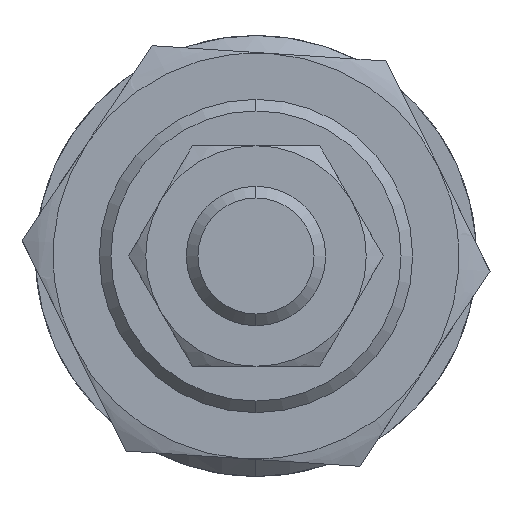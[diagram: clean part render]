
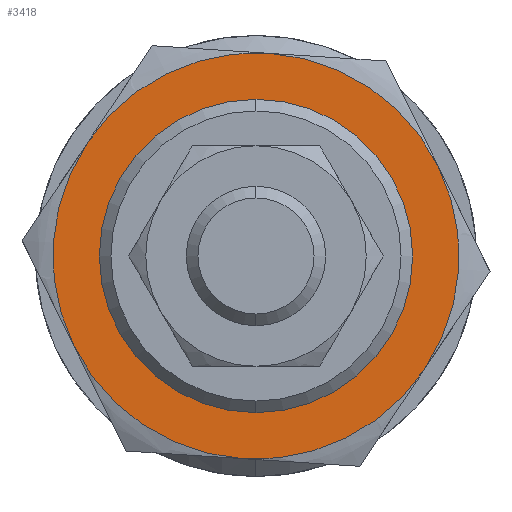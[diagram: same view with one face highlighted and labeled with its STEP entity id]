
A CAD part, left-side view. The second image highlights one B-rep face of the part: STEP entity #3418.
In plain terms, the highlighted planar face has unit normal (-1, 0, 0) as drawn and (0, 0, -1) by its records, which use the part's own axes.
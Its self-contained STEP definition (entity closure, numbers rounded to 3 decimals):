
#3 = EDGE_CURVE ( 'NONE', #1972, #694, #2742, .T. ) ;
#124 = CARTESIAN_POINT ( 'NONE',  ( 0., 0., -5. ) ) ;
#131 = VERTEX_POINT ( 'NONE', #1305 ) ;
#184 = VERTEX_POINT ( 'NONE', #1986 ) ;
#220 = CARTESIAN_POINT ( 'NONE',  ( 0., 0., -5. ) ) ;
#256 = DIRECTION ( 'NONE',  ( 0., 0., 1. ) ) ;
#394 = CARTESIAN_POINT ( 'NONE',  ( 8.75, 15.155, -5. ) ) ;
#447 = CARTESIAN_POINT ( 'NONE',  ( 0., 0., -5. ) ) ;
#463 = DIRECTION ( 'NONE',  ( 1., 0., 0. ) ) ;
#487 = DIRECTION ( 'NONE',  ( 1., 0., 0. ) ) ;
#512 = DIRECTION ( 'NONE',  ( 0., 0., 1. ) ) ;
#606 = FACE_OUTER_BOUND ( 'NONE', #1118, .T. ) ;
#694 = VERTEX_POINT ( 'NONE', #776 ) ;
#704 = AXIS2_PLACEMENT_3D ( 'NONE', #3410, #256, #487 ) ;
#741 = CIRCLE ( 'NONE', #1166, 17.5 ) ;
#761 = DIRECTION ( 'NONE',  ( 1., 0., 0. ) ) ;
#776 = CARTESIAN_POINT ( 'NONE',  ( -17.5, 0., -5. ) ) ;
#800 = EDGE_CURVE ( 'NONE', #1824, #3229, #3193, .T. ) ;
#870 = EDGE_CURVE ( 'NONE', #184, #1401, #3114, .T. ) ;
#885 = CIRCLE ( 'NONE', #2513, 17.5 ) ;
#904 = AXIS2_PLACEMENT_3D ( 'NONE', #1711, #2651, #761 ) ;
#960 = AXIS2_PLACEMENT_3D ( 'NONE', #1249, #3263, #1472 ) ;
#979 = AXIS2_PLACEMENT_3D ( 'NONE', #447, #2016, #1512 ) ;
#1026 = PLANE ( 'NONE',  #979 ) ;
#1118 = EDGE_LOOP ( 'NONE', ( #2991, #3058, #2803, #2875, #1579, #2914 ) ) ;
#1166 = AXIS2_PLACEMENT_3D ( 'NONE', #220, #3019, #2912 ) ;
#1249 = CARTESIAN_POINT ( 'NONE',  ( 0., 0., -5. ) ) ;
#1282 = DIRECTION ( 'NONE',  ( 0., 0., 1. ) ) ;
#1305 = CARTESIAN_POINT ( 'NONE',  ( -8.75, -15.155, -5. ) ) ;
#1338 = CIRCLE ( 'NONE', #704, 12.5 ) ;
#1386 = EDGE_LOOP ( 'NONE', ( #1795, #2566 ) ) ;
#1401 = VERTEX_POINT ( 'NONE', #2479 ) ;
#1465 = DIRECTION ( 'NONE',  ( 1., 0., 0. ) ) ;
#1472 = DIRECTION ( 'NONE',  ( 1., 0., 0. ) ) ;
#1512 = DIRECTION ( 'NONE',  ( 1., 0., 0. ) ) ;
#1516 = DIRECTION ( 'NONE',  ( 0., 0., 1. ) ) ;
#1579 = ORIENTED_EDGE ( 'NONE', *, *, #3, .F. ) ;
#1711 = CARTESIAN_POINT ( 'NONE',  ( 0., 0., -5. ) ) ;
#1795 = ORIENTED_EDGE ( 'NONE', *, *, #1830, .T. ) ;
#1824 = VERTEX_POINT ( 'NONE', #3012 ) ;
#1830 = EDGE_CURVE ( 'NONE', #1401, #184, #1338, .T. ) ;
#1876 = AXIS2_PLACEMENT_3D ( 'NONE', #2923, #1516, #3247 ) ;
#1971 = CARTESIAN_POINT ( 'NONE',  ( 0., 0., -5. ) ) ;
#1972 = VERTEX_POINT ( 'NONE', #2447 ) ;
#1986 = CARTESIAN_POINT ( 'NONE',  ( -12.5, 0., -5. ) ) ;
#2016 = DIRECTION ( 'NONE',  ( 0., 0., 1. ) ) ;
#2031 = EDGE_CURVE ( 'NONE', #2184, #1972, #741, .T. ) ;
#2112 = FACE_BOUND ( 'NONE', #1386, .T. ) ;
#2184 = VERTEX_POINT ( 'NONE', #394 ) ;
#2194 = CARTESIAN_POINT ( 'NONE',  ( 17.5, 0., -5. ) ) ;
#2270 = CARTESIAN_POINT ( 'NONE',  ( 0., 0., -5. ) ) ;
#2397 = EDGE_CURVE ( 'NONE', #3229, #2184, #2750, .T. ) ;
#2447 = CARTESIAN_POINT ( 'NONE',  ( -8.75, 15.155, -5. ) ) ;
#2479 = CARTESIAN_POINT ( 'NONE',  ( 12.5, 0., -5. ) ) ;
#2513 = AXIS2_PLACEMENT_3D ( 'NONE', #124, #3189, #1465 ) ;
#2562 = DIRECTION ( 'NONE',  ( 1., 0., 0. ) ) ;
#2566 = ORIENTED_EDGE ( 'NONE', *, *, #870, .T. ) ;
#2651 = DIRECTION ( 'NONE',  ( 0., 0., 1. ) ) ;
#2707 = EDGE_CURVE ( 'NONE', #131, #1824, #3184, .T. ) ;
#2742 = CIRCLE ( 'NONE', #904, 17.5 ) ;
#2750 = CIRCLE ( 'NONE', #960, 17.5 ) ;
#2803 = ORIENTED_EDGE ( 'NONE', *, *, #2707, .F. ) ;
#2875 = ORIENTED_EDGE ( 'NONE', *, *, #3033, .F. ) ;
#2897 = AXIS2_PLACEMENT_3D ( 'NONE', #1971, #512, #463 ) ;
#2912 = DIRECTION ( 'NONE',  ( 1., 0., 0. ) ) ;
#2914 = ORIENTED_EDGE ( 'NONE', *, *, #2031, .F. ) ;
#2923 = CARTESIAN_POINT ( 'NONE',  ( 0., 0., -5. ) ) ;
#2971 = AXIS2_PLACEMENT_3D ( 'NONE', #2270, #1282, #2562 ) ;
#2991 = ORIENTED_EDGE ( 'NONE', *, *, #2397, .F. ) ;
#3012 = CARTESIAN_POINT ( 'NONE',  ( 8.75, -15.155, -5. ) ) ;
#3019 = DIRECTION ( 'NONE',  ( 0., 0., 1. ) ) ;
#3033 = EDGE_CURVE ( 'NONE', #694, #131, #885, .T. ) ;
#3058 = ORIENTED_EDGE ( 'NONE', *, *, #800, .F. ) ;
#3114 = CIRCLE ( 'NONE', #1876, 12.5 ) ;
#3184 = CIRCLE ( 'NONE', #2897, 17.5 ) ;
#3189 = DIRECTION ( 'NONE',  ( 0., 0., 1. ) ) ;
#3193 = CIRCLE ( 'NONE', #2971, 17.5 ) ;
#3229 = VERTEX_POINT ( 'NONE', #2194 ) ;
#3247 = DIRECTION ( 'NONE',  ( 1., 0., 0. ) ) ;
#3263 = DIRECTION ( 'NONE',  ( 0., 0., 1. ) ) ;
#3410 = CARTESIAN_POINT ( 'NONE',  ( 0., 0., -5. ) ) ;
#3418 = ADVANCED_FACE ( 'NONE', ( #2112, #606 ), #1026, .F. ) ;
